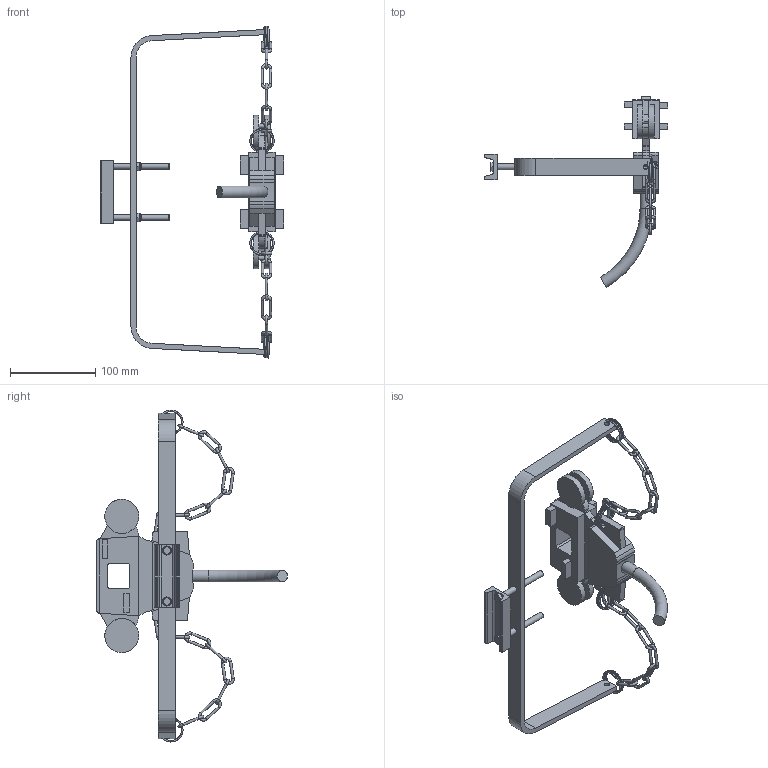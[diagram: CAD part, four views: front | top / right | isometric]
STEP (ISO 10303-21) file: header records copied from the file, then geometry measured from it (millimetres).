
FILE_DESCRIPTION(/* description */ ('Unknown'),/* implementation_level */ '2;1');
FILE_NAME(/* name */ 'MI203x+ME1600_chariot simple+entraîneur_SPL',/* time_stamp */ '2018-08-16T10:22:10+02:00',/* author */ ('Unknown'),/* organization */ ('Unknown'),/* preprocessor_version */ 'ST-DEVELOPER v16.7',/* originating_system */ 'DEX',/* authorisation */ $);
FILE_SCHEMA (('AUTOMOTIVE_DESIGN {1 0 10303 214 3 1 1}'));
Length unit declared in the file: millimetre
Products named in the file (13): Assemblage chariot simplifié simple +entraîneur; corps de chariot simplifié; Bride; chaine4_1; MAILLON-CHAINETTE_1; ANNEAU-ELASTIQUE_1; ANNEAU-ELASTIQUE_1_mir; chaine4_1_mir; entraineur ME1600; MN0217-TROMP_BRIDE PROFIL U_1; MN0222_1; Vis6x70_1; Ecrou M6 Nylstop
Assembly tree (31 placements, depth 3):
  Assemblage chariot simplifié simple +entraîneur
    corps de chariot simplifié
    Bride
    chaine4_1
      MAILLON-CHAINETTE_1  x8
      ANNEAU-ELASTIQUE_1
    ANNEAU-ELASTIQUE_1_mir
    chaine4_1_mir
      MAILLON-CHAINETTE_1  x8
      ANNEAU-ELASTIQUE_1_mir
    entraineur ME1600
      MN0217-TROMP_BRIDE PROFIL U_1
      MN0222_1
      Vis6x70_1  x2
      Ecrou M6 Nylstop  x2
    ANNEAU-ELASTIQUE_1
Bounding box: 215.42 x 224.43 x 390.07 mm (x, y, z)
Volume: 412364.1 mm3; surface area: 132431.8 mm2
Topology: 28 solids, 28 shells, 461 faces, 1202 edges, 768 vertices
Faces by surface type: plane 212, cylinder 131, bspline 70, cone 32, torus 14, sphere 2
Full cylindrical faces by diameter (mm): 3 x32, 6 x4, 6.5 x2, 7 x4, 8 x2, 9.6 x2, 14 x1, 40 x4
Entity records: 18310 total; most frequent: CARTESIAN_POINT 6973, DIRECTION 1826, ORIENTED_EDGE 1822, EDGE_CURVE 911, AXIS2_PLACEMENT_3D 670, VERTEX_POINT 594, LINE 486, VECTOR 486
